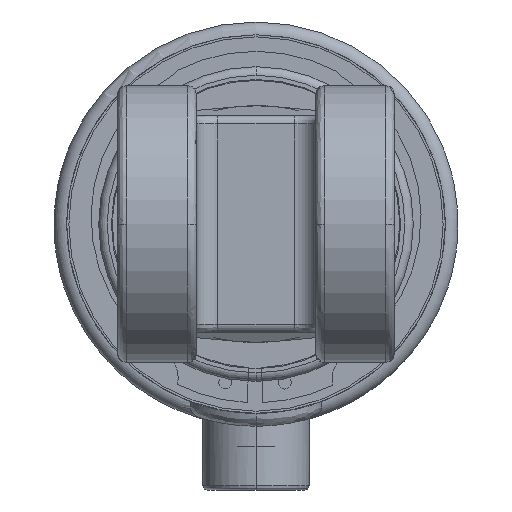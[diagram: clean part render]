
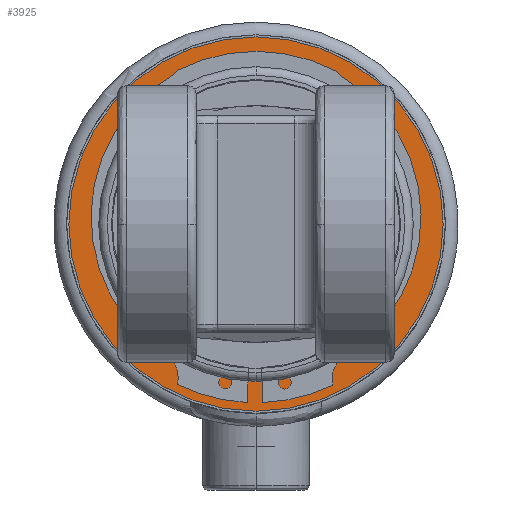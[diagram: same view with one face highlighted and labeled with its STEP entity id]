
A CAD part, left-side view. The second image highlights one B-rep face of the part: STEP entity #3925.
In plain terms, the highlighted planar face has unit normal (-1, 0, 0).
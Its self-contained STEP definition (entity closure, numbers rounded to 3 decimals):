
#316 = AXIS2_PLACEMENT_3D ( 'NONE', #11703, #6245, #734 ) ;
#504 = DIRECTION ( 'NONE',  ( 0., 0., 1. ) ) ;
#548 = CIRCLE ( 'NONE', #316, 36.95 ) ;
#596 = EDGE_CURVE ( 'NONE', #9119, #5984, #8338, .T. ) ;
#711 = CARTESIAN_POINT ( 'NONE',  ( -621.005, 0., 43.95 ) ) ;
#734 = DIRECTION ( 'NONE',  ( 0., 0., 1. ) ) ;
#768 = ORIENTED_EDGE ( 'NONE', *, *, #2041, .F. ) ;
#1100 = DIRECTION ( 'NONE',  ( -1., 0., 0. ) ) ;
#1153 = DIRECTION ( 'NONE',  ( -1., 0., 0. ) ) ;
#1375 = CARTESIAN_POINT ( 'NONE',  ( -621.005, 0., 36.95 ) ) ;
#1379 = CIRCLE ( 'NONE', #9164, 43.95 ) ;
#2041 = EDGE_CURVE ( 'NONE', #6809, #7728, #548, .T. ) ;
#2341 = ORIENTED_EDGE ( 'NONE', *, *, #596, .T. ) ;
#2912 = CARTESIAN_POINT ( 'NONE',  ( -621.005, 0., -36.95 ) ) ;
#3014 = EDGE_LOOP ( 'NONE', ( #2341, #7236 ) ) ;
#3720 = AXIS2_PLACEMENT_3D ( 'NONE', #4933, #11294, #5848 ) ;
#3925 = ADVANCED_FACE ( 'NONE', ( #11106, #8722 ), #6605, .T. ) ;
#4394 = CIRCLE ( 'NONE', #4680, 36.95 ) ;
#4680 = AXIS2_PLACEMENT_3D ( 'NONE', #11464, #6020, #504 ) ;
#4920 = EDGE_CURVE ( 'NONE', #5984, #9119, #1379, .T. ) ;
#4933 = CARTESIAN_POINT ( 'NONE',  ( -621.005, 0., 0. ) ) ;
#5348 = AXIS2_PLACEMENT_3D ( 'NONE', #9318, #1100, #7531 ) ;
#5848 = DIRECTION ( 'NONE',  ( 0., 0., 1. ) ) ;
#5855 = CARTESIAN_POINT ( 'NONE',  ( -621.005, 0., -43.95 ) ) ;
#5984 = VERTEX_POINT ( 'NONE', #5855 ) ;
#6020 = DIRECTION ( 'NONE',  ( -1., 0., 0. ) ) ;
#6245 = DIRECTION ( 'NONE',  ( -1., 0., 0. ) ) ;
#6605 = PLANE ( 'NONE',  #5348 ) ;
#6661 = CARTESIAN_POINT ( 'NONE',  ( -621.005, 0., 0. ) ) ;
#6809 = VERTEX_POINT ( 'NONE', #2912 ) ;
#7236 = ORIENTED_EDGE ( 'NONE', *, *, #4920, .T. ) ;
#7531 = DIRECTION ( 'NONE',  ( 0., 0., 1. ) ) ;
#7587 = DIRECTION ( 'NONE',  ( 0., 0., 1. ) ) ;
#7728 = VERTEX_POINT ( 'NONE', #1375 ) ;
#7806 = ORIENTED_EDGE ( 'NONE', *, *, #7833, .F. ) ;
#7833 = EDGE_CURVE ( 'NONE', #7728, #6809, #4394, .T. ) ;
#8338 = CIRCLE ( 'NONE', #3720, 43.95 ) ;
#8474 = EDGE_LOOP ( 'NONE', ( #7806, #768 ) ) ;
#8722 = FACE_BOUND ( 'NONE', #8474, .T. ) ;
#9119 = VERTEX_POINT ( 'NONE', #711 ) ;
#9164 = AXIS2_PLACEMENT_3D ( 'NONE', #6661, #1153, #7587 ) ;
#9318 = CARTESIAN_POINT ( 'NONE',  ( -621.005, 0., -43.95 ) ) ;
#11106 = FACE_OUTER_BOUND ( 'NONE', #3014, .T. ) ;
#11294 = DIRECTION ( 'NONE',  ( -1., 0., 0. ) ) ;
#11464 = CARTESIAN_POINT ( 'NONE',  ( -621.005, 0., 0. ) ) ;
#11703 = CARTESIAN_POINT ( 'NONE',  ( -621.005, 0., 0. ) ) ;
